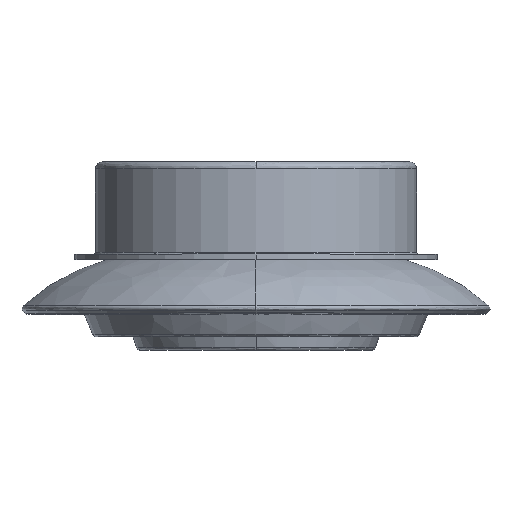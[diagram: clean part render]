
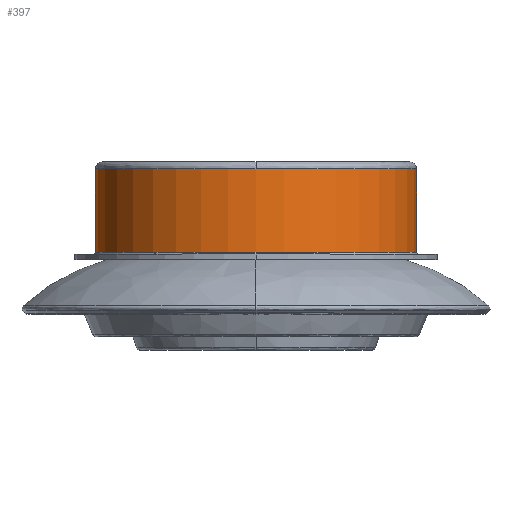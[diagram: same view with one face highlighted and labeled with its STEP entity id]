
A CAD part, top view. The second image highlights one B-rep face of the part: STEP entity #397.
In plain terms, the highlighted cylindrical face has radius 46 mm (diameter 92 mm), a partial arc.
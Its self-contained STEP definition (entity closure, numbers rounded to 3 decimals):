
#105 = DIRECTION ( 'NONE',  ( 0., -1., 0. ) ) ;
#147 = CYLINDRICAL_SURFACE ( 'NONE', #1255, 46. ) ;
#162 = EDGE_CURVE ( 'NONE', #2711, #815, #3582, .T. ) ;
#192 = DIRECTION ( 'NONE',  ( 0., 0., 1. ) ) ;
#238 = AXIS2_PLACEMENT_3D ( 'NONE', #3597, #2760, #738 ) ;
#310 = VERTEX_POINT ( 'NONE', #2491 ) ;
#314 = AXIS2_PLACEMENT_3D ( 'NONE', #1848, #105, #3435 ) ;
#397 = ADVANCED_FACE ( 'NONE', ( #1787 ), #147, .T. ) ;
#425 = LINE ( 'NONE', #2623, #3314 ) ;
#738 = DIRECTION ( 'NONE',  ( 0., 0., 1. ) ) ;
#777 = EDGE_CURVE ( 'NONE', #3328, #2714, #2880, .T. ) ;
#815 = VERTEX_POINT ( 'NONE', #1173 ) ;
#998 = CARTESIAN_POINT ( 'NONE',  ( 0., 15.963, 0. ) ) ;
#1075 = ORIENTED_EDGE ( 'NONE', *, *, #2878, .T. ) ;
#1116 = EDGE_LOOP ( 'NONE', ( #3705, #1075, #2397, #1308, #1595, #3022 ) ) ;
#1150 = AXIS2_PLACEMENT_3D ( 'NONE', #1737, #3450, #1411 ) ;
#1173 = CARTESIAN_POINT ( 'NONE',  ( 0., 15.963, 46. ) ) ;
#1223 = VECTOR ( 'NONE', #1946, 1000. ) ;
#1255 = AXIS2_PLACEMENT_3D ( 'NONE', #1698, #2609, #2455 ) ;
#1291 = CARTESIAN_POINT ( 'NONE',  ( 46., 15.963, 0. ) ) ;
#1308 = ORIENTED_EDGE ( 'NONE', *, *, #777, .T. ) ;
#1411 = DIRECTION ( 'NONE',  ( 0., 0., 1. ) ) ;
#1467 = CIRCLE ( 'NONE', #314, 46. ) ;
#1536 = AXIS2_PLACEMENT_3D ( 'NONE', #998, #2224, #192 ) ;
#1595 = ORIENTED_EDGE ( 'NONE', *, *, #1915, .F. ) ;
#1698 = CARTESIAN_POINT ( 'NONE',  ( 0., 39.963, 0. ) ) ;
#1737 = CARTESIAN_POINT ( 'NONE',  ( 0., 39.963, 0. ) ) ;
#1787 = FACE_OUTER_BOUND ( 'NONE', #1116, .T. ) ;
#1848 = CARTESIAN_POINT ( 'NONE',  ( 0., 39.963, 0. ) ) ;
#1883 = VERTEX_POINT ( 'NONE', #2045 ) ;
#1915 = EDGE_CURVE ( 'NONE', #1883, #2714, #2955, .T. ) ;
#1946 = DIRECTION ( 'NONE',  ( 0., 1., 0. ) ) ;
#2045 = CARTESIAN_POINT ( 'NONE',  ( -46., 15.963, 0. ) ) ;
#2224 = DIRECTION ( 'NONE',  ( 0., -1., 0. ) ) ;
#2397 = ORIENTED_EDGE ( 'NONE', *, *, #2665, .T. ) ;
#2409 = CARTESIAN_POINT ( 'NONE',  ( -46., 39.963, 0. ) ) ;
#2455 = DIRECTION ( 'NONE',  ( -1., 0., 0. ) ) ;
#2491 = CARTESIAN_POINT ( 'NONE',  ( 46., 39.963, 0. ) ) ;
#2497 = CARTESIAN_POINT ( 'NONE',  ( 0., 39.963, 46. ) ) ;
#2609 = DIRECTION ( 'NONE',  ( 0., 1., 0. ) ) ;
#2623 = CARTESIAN_POINT ( 'NONE',  ( 46., 39.963, 0. ) ) ;
#2665 = EDGE_CURVE ( 'NONE', #310, #3328, #1467, .T. ) ;
#2711 = VERTEX_POINT ( 'NONE', #1291 ) ;
#2714 = VERTEX_POINT ( 'NONE', #2409 ) ;
#2760 = DIRECTION ( 'NONE',  ( 0., -1., 0. ) ) ;
#2793 = EDGE_CURVE ( 'NONE', #815, #1883, #3406, .T. ) ;
#2878 = EDGE_CURVE ( 'NONE', #2711, #310, #425, .T. ) ;
#2880 = CIRCLE ( 'NONE', #1150, 46. ) ;
#2918 = DIRECTION ( 'NONE',  ( 0., 1., 0. ) ) ;
#2955 = LINE ( 'NONE', #3004, #1223 ) ;
#3004 = CARTESIAN_POINT ( 'NONE',  ( -46., 39.963, 0. ) ) ;
#3022 = ORIENTED_EDGE ( 'NONE', *, *, #2793, .F. ) ;
#3314 = VECTOR ( 'NONE', #2918, 1000. ) ;
#3328 = VERTEX_POINT ( 'NONE', #2497 ) ;
#3406 = CIRCLE ( 'NONE', #1536, 46. ) ;
#3435 = DIRECTION ( 'NONE',  ( 0., 0., 1. ) ) ;
#3450 = DIRECTION ( 'NONE',  ( 0., -1., 0. ) ) ;
#3582 = CIRCLE ( 'NONE', #238, 46. ) ;
#3597 = CARTESIAN_POINT ( 'NONE',  ( 0., 15.963, 0. ) ) ;
#3705 = ORIENTED_EDGE ( 'NONE', *, *, #162, .F. ) ;
